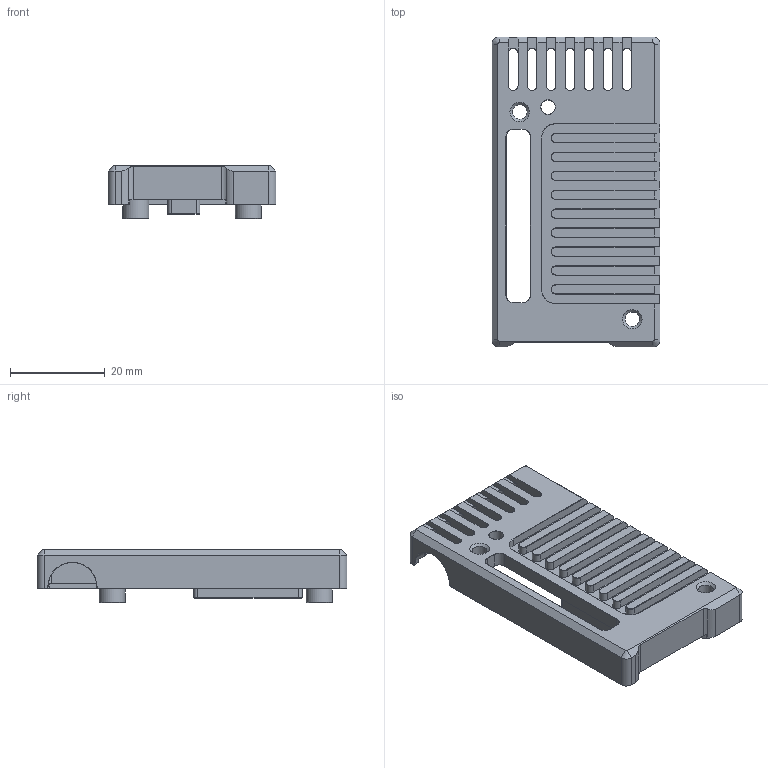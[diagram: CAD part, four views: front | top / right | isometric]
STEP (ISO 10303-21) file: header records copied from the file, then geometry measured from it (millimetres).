
FILE_DESCRIPTION(/* description */ (''),/* implementation_level */ '2;1');
FILE_NAME(/* name */ 'cover.step',/* time_stamp */ '2023-11-15T12:53:42+03:00',/* author */ (''),/* organization */ (''),/* preprocessor_version */ 'ST-DEVELOPER v20',/* originating_system */ 'Autodesk Translation Framework v12.14.0.127',/* authorisation */ '');
FILE_SCHEMA (('AUTOMOTIVE_DESIGN { 1 0 10303 214 3 1 1 }'));
Length unit declared in the file: millimetre
Products named in the file (1): Корпус универсал 
для CAN DRV_1.1.x
Bounding box: 35.5 x 65.5 x 11.3 mm (x, y, z)
Volume: 9869.6 mm3; surface area: 8366.1 mm2
Topology: 1 solids, 1 shells, 367 faces, 964 edges, 593 vertices
Faces by surface type: plane 190, cylinder 84, cone 74, bspline 19
Full cylindrical faces by diameter (mm): 3 x1, 3.1 x2, 5.5 x2
Entity records: 11531 total; most frequent: CARTESIAN_POINT 2426, ORIENTED_EDGE 1928, DIRECTION 1862, EDGE_CURVE 964, LINE 664, VECTOR 664, AXIS2_PLACEMENT_3D 599, VERTEX_POINT 593
